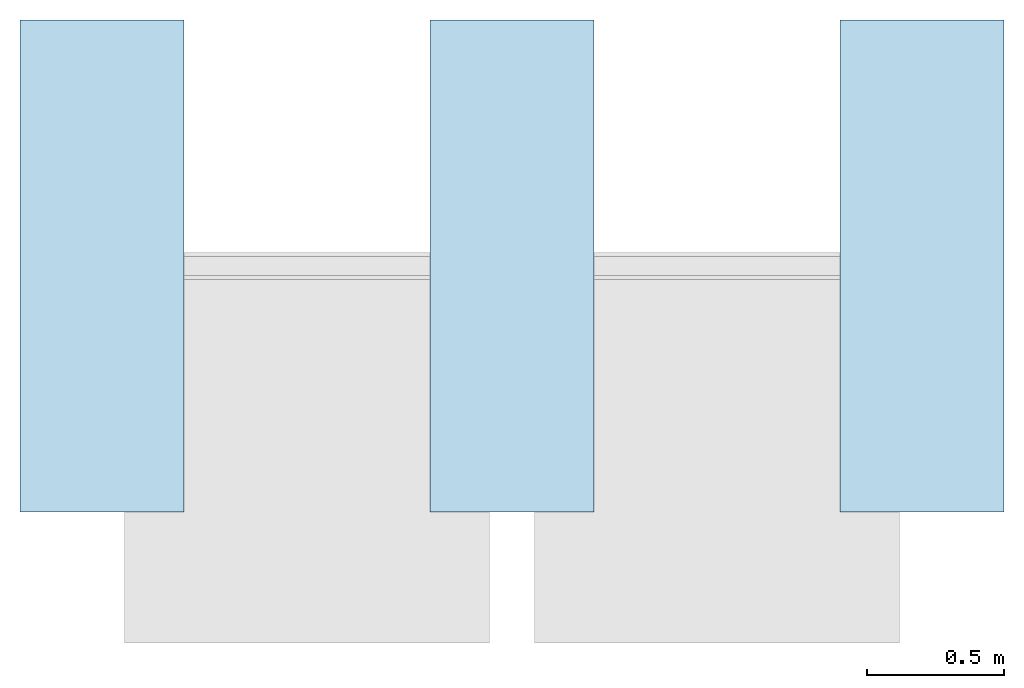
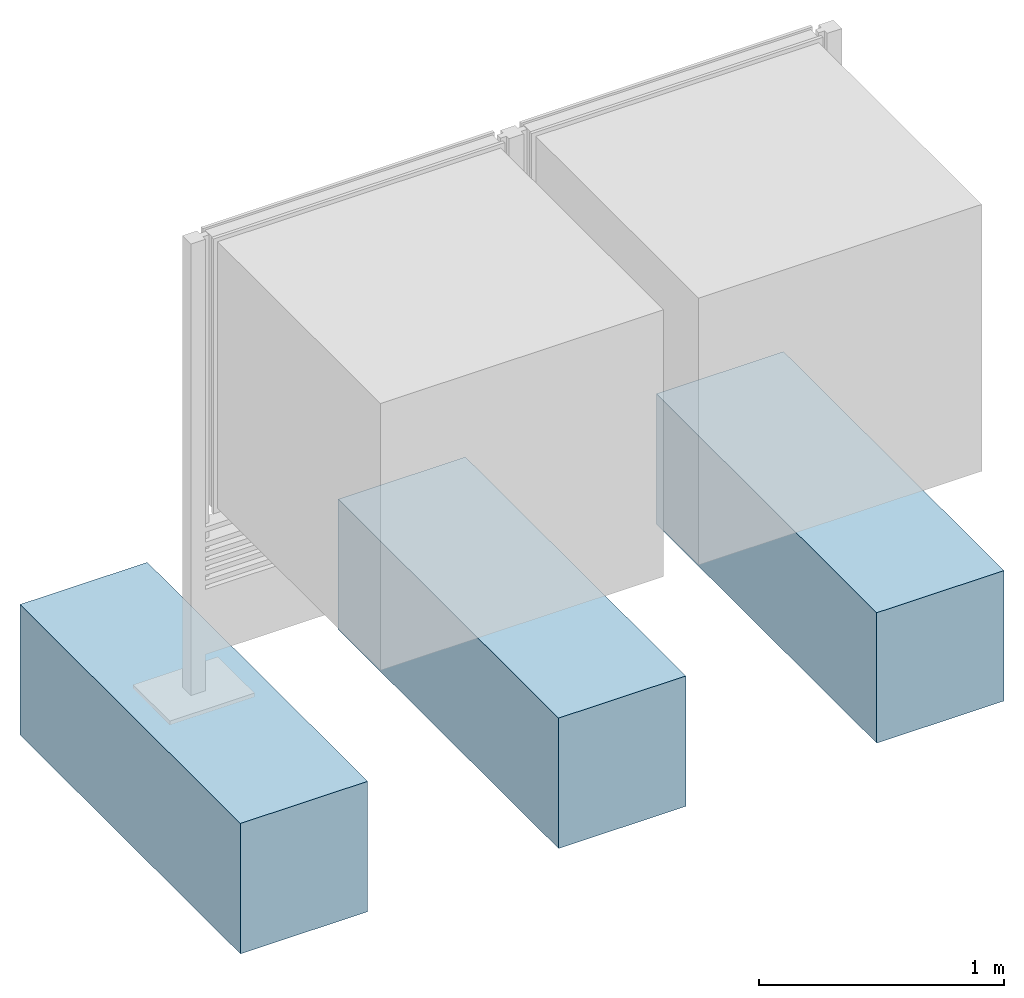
# One storey, incomplete: 3 slabs.
"""IFC4 building model written with IfcOpenShell, lengths in metres."""

import ifcopenshell
import ifcopenshell.guid

model = None  # the IFC model being written
_history = None  # IfcOwnerHistory: only IFC2X3 demands one
_inside = {}  # id of a spatial element -> (the spatial element, [elements in it])
_under = {}  # id of a project, library or spatial element -> (it, [spatial elements below it])
_declared = {}  # id of a project -> (the project, [libraries it declares])
_typed = {}  # id of a type object -> (the type object, [elements of that type])
_made_of = {}  # id of a material, layer set ... -> (it, [elements and type objects made of it])


def new_model(schema):
    """Start an empty IFC model of exactly this schema.

    Asked for "IFC4X3", IfcOpenShell would pick the latest addendum, in which some entities
    have other attributes; the version numbers below select the first issue.
    IFC2X3 requires an IfcOwnerHistory on every rooted entity: one is made here for all.
    """
    global model, _history
    if schema == "IFC4X3":
        model = ifcopenshell.file(schema_version=(4, 3, 0, 0))
    else:
        model = ifcopenshell.file(schema=schema)
    _inside.clear()
    _under.clear()
    _declared.clear()
    _typed.clear()
    _made_of.clear()
    _history = None
    if model.schema == "IFC2X3":
        org = make("IfcOrganization", Name="unknown")
        user = make(
            "IfcPersonAndOrganization",
            ThePerson=make("IfcPerson", FamilyName="unknown"),
            TheOrganization=org,
        )
        app = make(
            "IfcApplication",
            ApplicationDeveloper=org,
            Version="unknown",
            ApplicationFullName="unknown",
            ApplicationIdentifier="unknown",
        )
        _history = make(
            "IfcOwnerHistory",
            OwningUser=user,
            OwningApplication=app,
            ChangeAction="ADDED",
            CreationDate=0,
        )
    return model


def make(cls, **values):
    """One entity of the class cls with the attributes given. An attribute that is None is left unset."""
    return model.create_entity(
        cls, **{name: value for name, value in values.items() if value is not None}
    )


def entity(cls, *values):
    """Any entity or typed value of the class cls, its attributes in the order of the schema. None: left unset."""
    e = model.create_entity(cls)
    for i, value in enumerate(values):
        if value is not None:
            e[i] = value
    return e


def rooted(cls, **values):
    """An entity with a GlobalId (a new one), such as an element, a storey or a relation."""
    return make(cls, GlobalId=ifcopenshell.guid.new(), OwnerHistory=_history, **values)


def si_unit(unit_type, name, prefix=None):
    """IfcSIUnit, for example si_unit("LENGTHUNIT", "METRE", prefix="MILLI")."""
    return make("IfcSIUnit", UnitType=unit_type, Prefix=prefix, Name=name)


def converted_unit(unit_type, name, factor, base, dimensions=None, offset=None):
    """IfcConversionBasedUnit, such as the inch: factor (a typed value) times the base unit."""
    return make(
        "IfcConversionBasedUnit"
        if offset is None
        else "IfcConversionBasedUnitWithOffset",
        ConversionOffset=offset,
        Dimensions=None
        if dimensions is None
        else entity("IfcDimensionalExponents", *dimensions),
        UnitType=unit_type,
        Name=name,
        ConversionFactor=make(
            "IfcMeasureWithUnit", ValueComponent=factor, UnitComponent=base
        ),
    )


def assignment(units):
    """IfcUnitAssignment: the units of a project."""
    return None if units is None else make("IfcUnitAssignment", Units=units)


def point(xyz):
    """IfcCartesianPoint."""
    return None if xyz is None else make("IfcCartesianPoint", Coordinates=xyz)


def direction(xyz):
    """IfcDirection."""
    return None if xyz is None else make("IfcDirection", DirectionRatios=xyz)


def frame(location, z_axis=None, x_axis=None):
    """IfcAxis2Placement3D, a coordinate frame: its origin and axes. An axis left out is left unset."""
    return make(
        "IfcAxis2Placement3D",
        Location=point(location),
        Axis=direction(z_axis),
        RefDirection=direction(x_axis),
    )


def frame_2d(location, x_axis=None):
    """IfcAxis2Placement2D, a coordinate frame in the plane: its origin and x axis."""
    return make(
        "IfcAxis2Placement2D", Location=point(location), RefDirection=direction(x_axis)
    )


def origin():
    """The frame at (0, 0, 0) with its axes left unset."""
    return frame((0.0, 0.0, 0.0))


def origin_2d_with_axis():
    """The frame at (0, 0) in the plane with the x axis (1, 0) written out."""
    return frame_2d((0.0, 0.0), x_axis=(1.0, 0.0))


def place(relative_to, where):
    """IfcLocalPlacement: puts the frame where relative to a parent placement (None: the world)."""
    return make(
        "IfcLocalPlacement", PlacementRelTo=relative_to, RelativePlacement=where
    )


def context(
    kind, dimensions, precision=None, world=None, true_north=None, identifier=None
):
    """IfcGeometricRepresentationContext, for example the 3D "Model" context."""
    return make(
        "IfcGeometricRepresentationContext",
        ContextIdentifier=identifier,
        ContextType=kind,
        CoordinateSpaceDimension=dimensions,
        Precision=precision,
        WorldCoordinateSystem=world,
        TrueNorth=true_north,
    )


def subcontext(parent, identifier, kind, view, scale=None):
    """IfcGeometricRepresentationSubContext, for example "Body" below "Model"."""
    return make(
        "IfcGeometricRepresentationSubContext",
        ContextIdentifier=identifier,
        ContextType=kind,
        ParentContext=parent,
        TargetScale=scale,
        TargetView=view,
    )


def project(units=None, contexts=None):
    """IfcProject with its units and contexts."""
    return rooted(
        "IfcProject",
        Name="project",
        RepresentationContexts=contexts,
        UnitsInContext=assignment(units),
    )


def spatial(cls, under=None, at=None, **own):
    """A site, building, storey or space (cls), placed at a placement, below another one or the project."""
    s = rooted(cls, ObjectPlacement=at, **own)
    if under is not None:
        _under.setdefault(under.id(), (under, []))[1].append(s)
    return s


def profile(cls, at=None, kind="AREA", **sizes):
    """A parametric profile (cls). Its sizes go by their IFC names, for example OverallWidth=200.0."""
    return make(cls, ProfileType=kind, Position=at, **sizes)


def rectangle(**sizes):
    """IfcRectangleProfileDef."""
    return profile("IfcRectangleProfileDef", **sizes)


def extrude(swept, where, along, depth):
    """IfcExtrudedAreaSolid: the profile swept, set in the frame where, extruded along a direction by depth."""
    return make(
        "IfcExtrudedAreaSolid",
        SweptArea=swept,
        Position=where,
        ExtrudedDirection=direction(along),
        Depth=depth,
    )


def shape(context_of_items, identifier, shape_type, items):
    """IfcShapeRepresentation: the items that make up one representation, for example the "Body"."""
    return make(
        "IfcShapeRepresentation",
        ContextOfItems=context_of_items,
        RepresentationIdentifier=identifier,
        RepresentationType=shape_type,
        Items=items,
    )


def material(Name=None, Category=None):
    """IfcMaterial."""
    return make("IfcMaterial", Name=Name, Category=Category)


def made_of(thing, what):
    """Note that an element or type object is made of a material, layer set ...; save() writes the relation."""
    if what is not None:
        _made_of.setdefault(what.id(), (what, []))[1].append(thing)
    return thing


def type_object(cls, material=None, **own):
    """A type object (cls), such as IfcWallType, which elements share."""
    return made_of(rooted(cls, **own), material)


def element(
    cls,
    number,
    at=None,
    inside=None,
    cuts=None,
    type_object=None,
    material=None,
    context=None,
    identifier="Body",
    shape_type=None,
    held_by="IfcProductDefinitionShape",
    body=None,
    shapes=None,
    **own,
):
    """One element of the class cls, such as IfcWall. Its Tag is "e" and its number.

    at: its placement. inside: the storey or other place that contains it. cuts: it is an
    opening in that element (IfcRelVoidsElement). A single representation is given by context,
    identifier, shape_type and body (its items); several are given by shapes. held_by: the class
    of the entity that holds the representations. save() writes the other relations.
    """
    e = rooted(cls, Tag="e%d" % number, ObjectPlacement=at, **own)
    if body is not None:
        shapes = [shape(context, identifier, shape_type, body)]
    if shapes is not None:
        e.Representation = make(held_by, Representations=shapes)
    if inside is not None:
        _inside.setdefault(inside.id(), (inside, []))[1].append(e)
    if cuts is not None:
        rooted(
            "IfcRelVoidsElement", RelatingBuildingElement=cuts, RelatedOpeningElement=e
        )
    if type_object is not None:
        _typed.setdefault(type_object.id(), (type_object, []))[1].append(e)
    return made_of(e, material)


def aggregate(whole, parts):
    """IfcRelAggregates: a whole, such as a stair, and the parts it consists of."""
    return rooted("IfcRelAggregates", RelatingObject=whole, RelatedObjects=parts)


def save(model, path):
    """Write the relations noted so far, then the file.

    IfcRelAggregates (storeys below a building ...), IfcRelContainedInSpatialStructure (elements
    in a storey), IfcRelDefinesByType, IfcRelAssociatesMaterial and IfcRelDeclares: one each for
    every whole, place, type object, material and project.
    """
    for whole, parts in _under.values():
        aggregate(whole, parts)
    for where, things in _inside.values():
        rooted(
            "IfcRelContainedInSpatialStructure",
            RelatedElements=things,
            RelatingStructure=where,
        )
    for kind, things in _typed.values():
        rooted("IfcRelDefinesByType", RelatedObjects=things, RelatingType=kind)
    for what, things in _made_of.values():
        rooted("IfcRelAssociatesMaterial", RelatedObjects=things, RelatingMaterial=what)
    for by, libraries in _declared.values():
        rooted("IfcRelDeclares", RelatingContext=by, RelatedDefinitions=libraries)
    model.write(path)


model = new_model("IFC4")

# Units and contexts
model_context = context("Model", 3, precision=1e-05, world=origin(), true_north=direction((6.123031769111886e-17, 1.0)))
body_context = subcontext(model_context, "Body", "Model", "MODEL_VIEW")
ifc_project = project(units=[si_unit("LENGTHUNIT", "METRE"), converted_unit("PLANEANGLEUNIT", "DEGREE", entity("IfcPlaneAngleMeasure", 0.017453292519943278), si_unit("PLANEANGLEUNIT", "RADIAN"), dimensions=[0, 0, 0, 0, 0, 0, 0]), si_unit("AREAUNIT", "SQUARE_METRE")], contexts=[model_context])

# Site, building, storey
site_placement = place(None, origin())
site = spatial("IfcSite", under=ifc_project, at=site_placement, Name="Default", CompositionType="ELEMENT")
building_placement = place(site_placement, origin())
building = spatial("IfcBuilding", under=site, at=building_placement, CompositionType="ELEMENT")
storey_placement = place(building_placement, origin())
storey = spatial("IfcBuildingStorey", under=building, at=storey_placement, Name="DB_Bezugshoehe_max_Bahnsteigkante", CompositionType="ELEMENT", Elevation=0.0)

# Slabs
ifc_material = material(Name="DB_Ortbeton", Category="DB_Beton")
slab_type = type_object("IfcSlabType", Name="DB_Vitrine_Fundament:DB_Vitrine_Fundament", PredefinedType="BASESLAB", material=ifc_material)
slab_1_placement = place(storey_placement, origin())
element("IfcSlab", 1, at=slab_1_placement, inside=storey, type_object=slab_type, Name="DB_Vitrine_Fundament:DB_Vitrine_Fundament", ObjectType="DB_Vitrine_Fundament:DB_Vitrine_Fundament", PredefinedType="BASESLAB", context=body_context, shape_type="SweptSolid", body=[
    extrude(rectangle(XDim=1.8, YDim=0.5999999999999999, at=origin_2d_with_axis()), frame((-0.0006257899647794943, 0.0, 0.04999999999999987), z_axis=(0.0, 0.0, 1.0), x_axis=(0.0, 1.0, 0.0)), (0.0, 0.0, 1.0), 0.5999999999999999),
    extrude(rectangle(XDim=0.5999999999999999, YDim=1.7999999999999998, at=origin_2d_with_axis()), frame((-0.0006257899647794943, 0.0, 0.0), z_axis=(0.0, 0.0, 1.0), x_axis=(-1.0, 0.0, 0.0)), (0.0, 0.0, 1.0), 0.04999999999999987),
])
slab_2_placement = place(storey_placement, origin())
element("IfcSlab", 2, at=slab_2_placement, inside=storey, type_object=slab_type, Name="DB_Vitrine_Fundament:DB_Vitrine_Fundament", ObjectType="DB_Vitrine_Fundament:DB_Vitrine_Fundament", PredefinedType="BASESLAB", context=body_context, shape_type="SweptSolid", body=[
    extrude(rectangle(XDim=1.8, YDim=0.5999999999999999, at=frame_2d((0.0, -8.326672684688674e-17), x_axis=(1.0, 0.0))), frame((1.49937421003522, 0.0, 0.04999999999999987), z_axis=(0.0, 0.0, 1.0), x_axis=(0.0, 1.0, 0.0)), (0.0, 0.0, 1.0), 0.5999999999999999),
    extrude(rectangle(XDim=0.6000000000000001, YDim=1.7999999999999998, at=origin_2d_with_axis()), frame((1.49937421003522, 0.0, 0.0), z_axis=(0.0, 0.0, 1.0), x_axis=(-1.0, 0.0, 0.0)), (0.0, 0.0, 1.0), 0.04999999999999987),
])
slab_3_placement = place(storey_placement, origin())
element("IfcSlab", 3, at=slab_3_placement, inside=storey, type_object=slab_type, Name="DB_Vitrine_Fundament:DB_Vitrine_Fundament", ObjectType="DB_Vitrine_Fundament:DB_Vitrine_Fundament", PredefinedType="BASESLAB", context=body_context, shape_type="SweptSolid", body=[
    extrude(rectangle(XDim=1.8, YDim=0.6000000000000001, at=origin_2d_with_axis()), frame((2.9993742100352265, 0.0, 0.04999999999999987), z_axis=(0.0, 0.0, 1.0), x_axis=(0.0, 1.0, 0.0)), (0.0, 0.0, 1.0), 0.5999999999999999),
    extrude(rectangle(XDim=0.6000000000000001, YDim=1.7999999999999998, at=origin_2d_with_axis()), frame((2.9993742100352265, 0.0, 0.0), z_axis=(0.0, 0.0, 1.0), x_axis=(-1.0, 0.0, 0.0)), (0.0, 0.0, 1.0), 0.04999999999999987),
])

save(model, "model.ifc")
